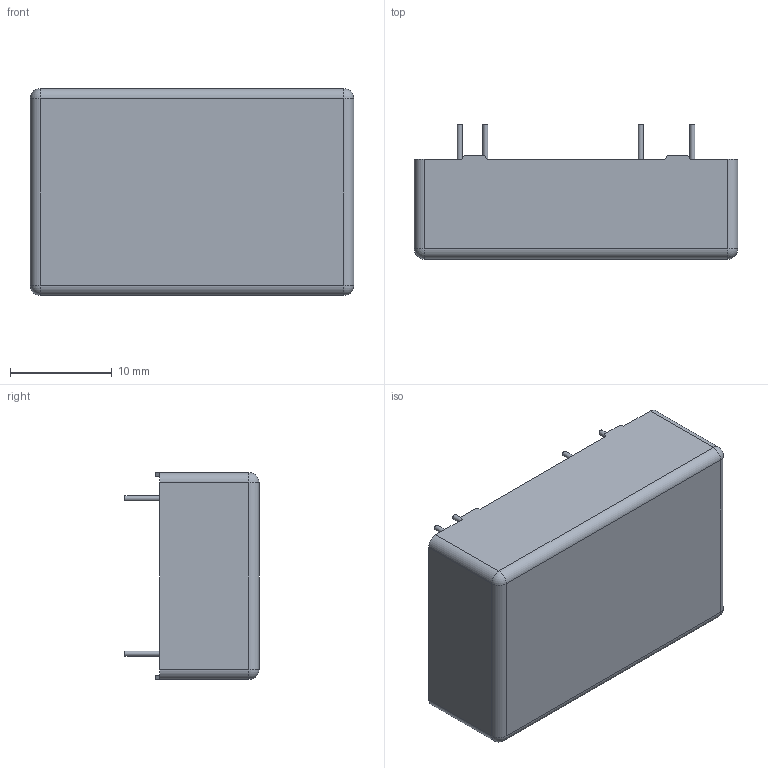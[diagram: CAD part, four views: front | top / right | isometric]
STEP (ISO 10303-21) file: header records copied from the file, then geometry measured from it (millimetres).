
FILE_DESCRIPTION(/* description */ ('Unknown'),/* implementation_level */ '2;1');
FILE_NAME(/* name */ 'JTC04(D)(-H)',/* time_stamp */ '2017-12-01T15:23:25+08:00',/* author */ ('Unknown'),/* organization */ ('Unknown'),/* preprocessor_version */ 'ST-DEVELOPER v16.7',/* originating_system */ 'DEX',/* authorisation */ $);
FILE_SCHEMA (('AUTOMOTIVE_DESIGN {1 0 10303 214 3 1 1}'));
Length unit declared in the file: millimetre
Products named in the file (1): JTC04(D)(-H)
Bounding box: 31.75 x 13.16 x 20.32 mm (x, y, z)
Volume: 6273.5 mm3; surface area: 2294.5 mm2
Topology: 1 solids, 1 shells, 50 faces, 112 edges, 68 vertices
Faces by surface type: plane 30, cylinder 16, sphere 4
Full cylindrical faces by diameter (mm): 0.5 x8
Entity records: 1338 total; most frequent: DIRECTION 234, CARTESIAN_POINT 219, ORIENTED_EDGE 200, EDGE_CURVE 100, AXIS2_PLACEMENT_3D 83, VERTEX_POINT 68, LINE 68, VECTOR 68
